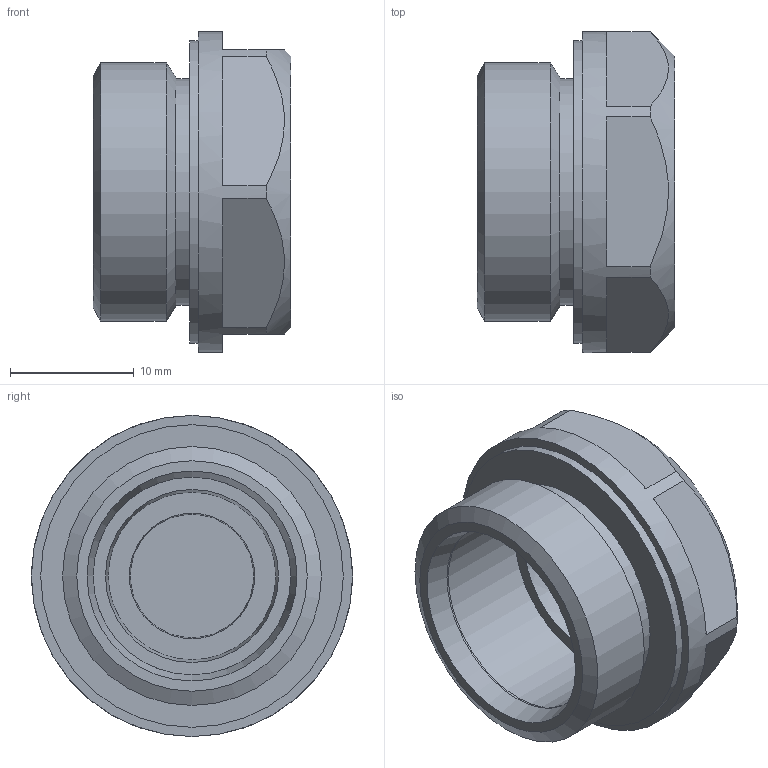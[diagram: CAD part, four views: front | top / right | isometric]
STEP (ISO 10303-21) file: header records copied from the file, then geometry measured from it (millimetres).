
FILE_DESCRIPTION( ( 'STEP AP203' ), '1' );
FILE_NAME( 'C:/Temp/Ganter_Step_05_03_2020/data/3_5/gn7404/gn7404_al/Two-way breathable membrane GN 7404-AL-G1_2-1,2.stp', '2020-03-12T13:43:59', ( 'License CC BY-ND 4.0' ), ( 'CADENAS' ), ' ', 'PARTsolutions', ' ' );
FILE_SCHEMA( ( 'CONFIG_CONTROL_DESIGN' ) );
Length unit declared in the file: millimetre
Products named in the file (1): _Two-way breathable membrane GN 7404-AL-G1/2-1,2
Bounding box: 16 x 26 x 26 mm (x, y, z)
Volume: 3593 mm3; surface area: 3441.6 mm2
Topology: 1 solids, 1 shells, 72 faces, 211 edges, 142 vertices
Faces by surface type: cylinder 33, plane 24, cone 9, torus 4, sphere 2
Full cylindrical faces by diameter (mm): 1.6 x13, 14 x1, 15.7 x1, 16 x1, 18.3 x1, 18.5 x1, 20.955 x1, 24.5 x1, 26 x1
Entity records: 2932 total; most frequent: CARTESIAN_POINT 1301, ORIENTED_EDGE 294, DIRECTION 282, EDGE_LOOP 148, EDGE_CURVE 147, AXIS2_PLACEMENT_3D 126, VERTEX_POINT 117, FACE_OUTER_BOUND 99
